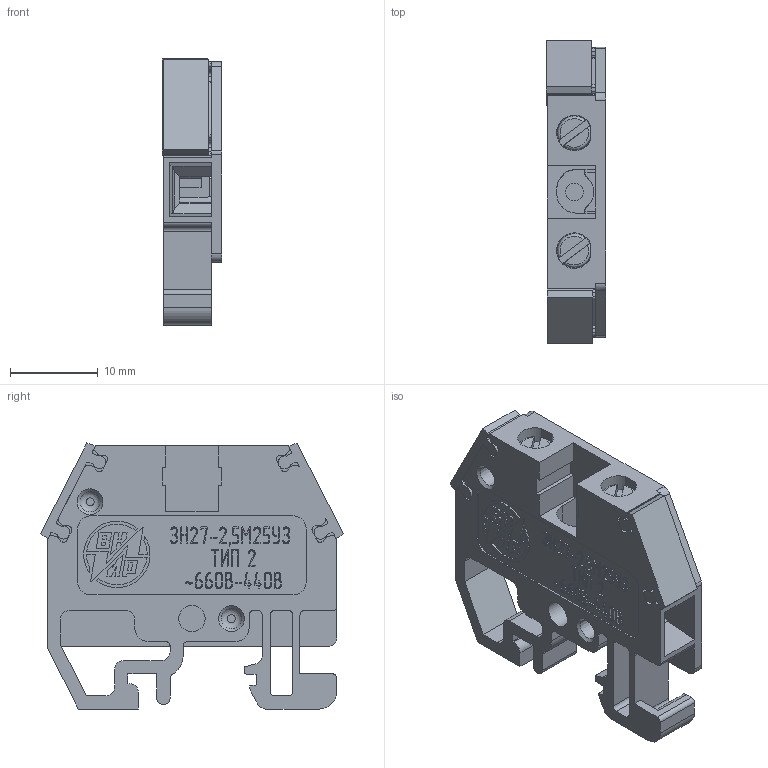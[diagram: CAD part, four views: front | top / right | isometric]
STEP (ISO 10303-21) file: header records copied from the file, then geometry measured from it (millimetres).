
FILE_DESCRIPTION(('STEP AP242'), '1');
FILE_NAME('ÇÍ27-2,5Ì25 òèï 2 ñ êðûøêîé ÊÒ8', '', ('UNSPECIFIED'), ('UNSPECIFIED'), 'ASCON STEP Converter 1.6', 'ASCON Math Kernel', '');
FILE_SCHEMA(('AP242_MANAGED_MODEL_BASED_3D_ENGINEERING_MIM_LF { 1 0 10303 442 1 1 4 }'));
Length unit declared in the file: millimetre
Bounding box: 6.82 x 34.48 x 30.3 mm (x, y, z)
Volume: 3533 mm3; surface area: 5166.2 mm2
Topology: 1 solids, 1 shells, 2326 faces, 6802 edges, 4519 vertices
Faces by surface type: plane 1499, cylinder 807, cone 12, torus 8
Full cylindrical faces by diameter (mm): 2 x2, 2.013 x1, 2.459 x2, 2.6 x2, 3 x3
Entity records: 96166 total; most frequent: CARTESIAN_POINT 14335, ORIENTED_EDGE 13548, DIRECTION 13028, EDGE_CURVE 6774, LINE 5074, VECTOR 5074, VERTEX_POINT 4517, AXIS2_PLACEMENT_3D 3977
